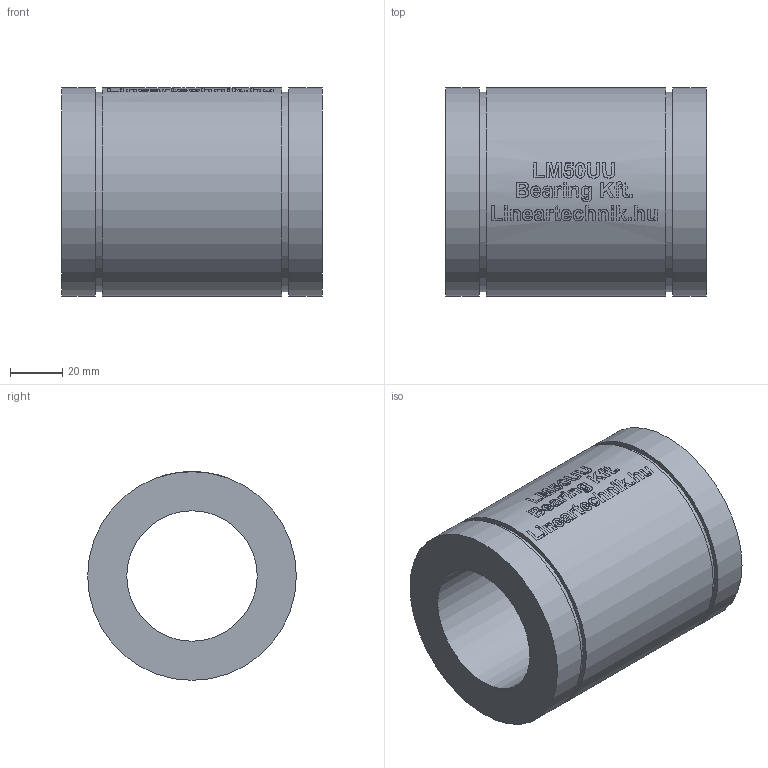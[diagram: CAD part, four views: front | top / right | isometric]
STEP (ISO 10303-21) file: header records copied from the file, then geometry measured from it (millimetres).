
FILE_DESCRIPTION(/* description */ ('Huosing for flange nuts'),/* implementation_level */ '2;1');
FILE_NAME(/* name */ 'LM50UU',/* time_stamp */ '2019-05-07T14:08:39+02:00',/* author */ ('VĂ©gh MĂˇtĂ©'),/* organization */ ('Bearing Kft'),/* preprocessor_version */ 'ST-DEVELOPER v16.7',/* originating_system */ 'DEX',/* authorisation */ $);
FILE_SCHEMA (('AUTOMOTIVE_DESIGN {1 0 10303 214 3 1 1}'));
Length unit declared in the file: millimetre
Products named in the file (1): LM50UU
Bounding box: 100 x 80 x 80 mm (x, y, z)
Volume: 304020.9 mm3; surface area: 48702.5 mm2
Topology: 1 solids, 1 shells, 301 faces, 753 edges, 503 vertices
Faces by surface type: plane 154, bspline 96, cylinder 51
Full cylindrical faces by diameter (mm): 50 x1, 76.5 x2, 80 x3
Entity records: 21472 total; most frequent: CARTESIAN_POINT 14796, ORIENTED_EDGE 1484, DIRECTION 1097, EDGE_CURVE 742, VERTEX_POINT 501, LINE 407, VECTOR 407, EDGE_LOOP 361
